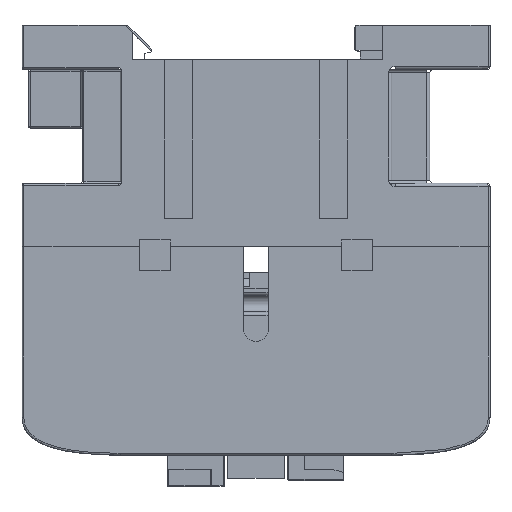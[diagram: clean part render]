
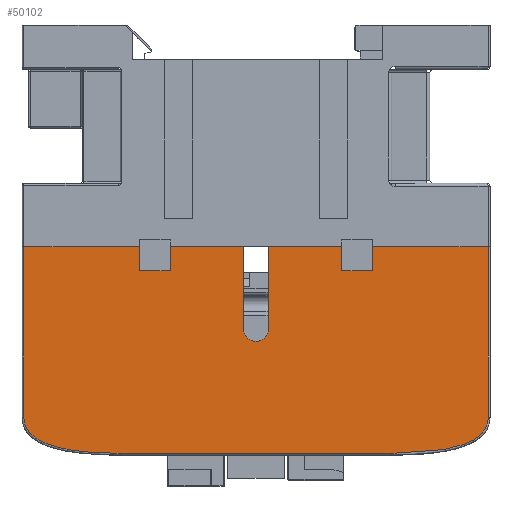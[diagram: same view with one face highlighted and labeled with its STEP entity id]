
A CAD part, left-side view. The second image highlights one B-rep face of the part: STEP entity #50102.
In plain terms, the highlighted planar face has unit normal (-1, 0, 0).
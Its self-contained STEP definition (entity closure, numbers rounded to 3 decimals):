
#30457=DIRECTION('',(0.,0.,1.));
#30458=VECTOR('',#30457,27.);
#30459=CARTESIAN_POINT('',(-22.5,-36.7,-31.));
#30460=LINE('',#30459,#30458);
#30461=CARTESIAN_POINT('',(-22.5,-21.5,-36.7));
#30462=CARTESIAN_POINT('',(-22.5,-21.761,-36.7));
#30463=CARTESIAN_POINT('',(-22.5,-22.294,-36.697));
#30464=CARTESIAN_POINT('',(-22.5,-23.094,-36.685));
#30465=CARTESIAN_POINT('',(-22.5,-24.004,-36.66));
#30466=CARTESIAN_POINT('',(-22.5,-24.994,-36.617));
#30467=CARTESIAN_POINT('',(-22.5,-26.084,-36.549));
#30468=CARTESIAN_POINT('',(-22.5,-27.258,-36.447));
#30469=CARTESIAN_POINT('',(-22.5,-28.44,-36.308));
#30470=CARTESIAN_POINT('',(-22.5,-29.549,-36.139));
#30471=CARTESIAN_POINT('',(-22.5,-30.555,-35.943));
#30472=CARTESIAN_POINT('',(-22.5,-31.445,-35.73));
#30473=CARTESIAN_POINT('',(-22.5,-32.228,-35.504));
#30474=CARTESIAN_POINT('',(-22.5,-32.926,-35.262));
#30475=CARTESIAN_POINT('',(-22.5,-33.553,-35.004));
#30476=CARTESIAN_POINT('',(-22.5,-34.108,-34.733));
#30477=CARTESIAN_POINT('',(-22.5,-34.593,-34.453));
#30478=CARTESIAN_POINT('',(-22.5,-35.013,-34.166));
#30479=CARTESIAN_POINT('',(-22.5,-35.371,-33.875));
#30480=CARTESIAN_POINT('',(-22.5,-35.672,-33.584));
#30481=CARTESIAN_POINT('',(-22.5,-35.92,-33.297));
#30482=CARTESIAN_POINT('',(-22.5,-36.121,-33.017));
#30483=CARTESIAN_POINT('',(-22.5,-36.281,-32.746));
#30484=CARTESIAN_POINT('',(-22.5,-36.405,-32.49));
#30485=CARTESIAN_POINT('',(-22.5,-36.498,-32.25));
#30486=CARTESIAN_POINT('',(-22.5,-36.567,-32.028));
#30487=CARTESIAN_POINT('',(-22.5,-36.617,-31.823));
#30488=CARTESIAN_POINT('',(-22.5,-36.652,-31.637));
#30489=CARTESIAN_POINT('',(-22.5,-36.675,-31.466));
#30490=CARTESIAN_POINT('',(-22.5,-36.689,-31.314));
#30491=CARTESIAN_POINT('',(-22.5,-36.698,-31.167));
#30492=CARTESIAN_POINT('',(-22.5,-36.7,-31.057));
#30493=CARTESIAN_POINT('',(-22.5,-36.7,-31.));
#30495=DIRECTION('',(0.,-1.,0.));
#30496=VECTOR('',#30495,43.);
#30497=CARTESIAN_POINT('',(-22.5,21.5,-36.7));
#30498=LINE('',#30497,#30496);
#30499=CARTESIAN_POINT('',(-22.5,36.7,-31.));
#30500=CARTESIAN_POINT('',(-22.5,36.7,-31.13));
#30501=CARTESIAN_POINT('',(-22.5,36.688,-31.391));
#30502=CARTESIAN_POINT('',(-22.5,36.635,-31.766));
#30503=CARTESIAN_POINT('',(-22.5,36.528,-32.186));
#30504=CARTESIAN_POINT('',(-22.5,36.347,-32.635));
#30505=CARTESIAN_POINT('',(-22.5,36.075,-33.103));
#30506=CARTESIAN_POINT('',(-22.5,35.693,-33.576));
#30507=CARTESIAN_POINT('',(-22.5,35.19,-34.041));
#30508=CARTESIAN_POINT('',(-22.5,34.56,-34.484));
#30509=CARTESIAN_POINT('',(-22.5,33.796,-34.901));
#30510=CARTESIAN_POINT('',(-22.5,32.896,-35.282));
#30511=CARTESIAN_POINT('',(-22.5,31.839,-35.629));
#30512=CARTESIAN_POINT('',(-22.5,30.605,-35.939));
#30513=CARTESIAN_POINT('',(-22.5,29.257,-36.191));
#30514=CARTESIAN_POINT('',(-22.5,27.998,-36.365));
#30515=CARTESIAN_POINT('',(-22.5,26.861,-36.484));
#30516=CARTESIAN_POINT('',(-22.5,25.833,-36.565));
#30517=CARTESIAN_POINT('',(-22.5,24.894,-36.621));
#30518=CARTESIAN_POINT('',(-22.5,24.056,-36.657));
#30519=CARTESIAN_POINT('',(-22.5,23.264,-36.681));
#30520=CARTESIAN_POINT('',(-22.5,22.441,-36.696));
#30521=CARTESIAN_POINT('',(-22.5,21.822,-36.7));
#30522=CARTESIAN_POINT('',(-22.5,21.5,-36.7));
#30524=DIRECTION('',(0.,0.,-1.));
#30525=VECTOR('',#30524,27.);
#30526=CARTESIAN_POINT('',(-22.5,36.7,-4.));
#30527=LINE('',#30526,#30525);
#30528=DIRECTION('',(0.,0.,-1.));
#30529=VECTOR('',#30528,3.8);
#30530=CARTESIAN_POINT('',(-22.5,18.45,-4.));
#30531=LINE('',#30530,#30529);
#30532=DIRECTION('',(0.,-1.,0.));
#30533=VECTOR('',#30532,4.9);
#30534=CARTESIAN_POINT('',(-22.5,18.45,-7.8));
#30535=LINE('',#30534,#30533);
#30536=DIRECTION('',(0.,0.,1.));
#30537=VECTOR('',#30536,3.8);
#30538=CARTESIAN_POINT('',(-22.5,13.55,-7.8));
#30539=LINE('',#30538,#30537);
#30540=DIRECTION('',(0.,0.,-1.));
#30541=VECTOR('',#30540,13.);
#30542=CARTESIAN_POINT('',(-22.5,2.,-4.));
#30543=LINE('',#30542,#30541);
#30544=CARTESIAN_POINT('',(-22.5,0.,-17.));
#30545=DIRECTION('',(-1.,0.,0.));
#30546=DIRECTION('',(0.,1.,0.));
#30547=AXIS2_PLACEMENT_3D('',#30544,#30545,#30546);
#30549=DIRECTION('',(0.,0.,-1.));
#30550=VECTOR('',#30549,13.);
#30551=CARTESIAN_POINT('',(-22.5,-2.,-4.));
#30552=LINE('',#30551,#30550);
#30553=DIRECTION('',(0.,0.,-1.));
#30554=VECTOR('',#30553,3.8);
#30555=CARTESIAN_POINT('',(-22.5,-13.55,-4.));
#30556=LINE('',#30555,#30554);
#30557=DIRECTION('',(0.,-1.,0.));
#30558=VECTOR('',#30557,4.9);
#30559=CARTESIAN_POINT('',(-22.5,-13.55,-7.8));
#30560=LINE('',#30559,#30558);
#30561=DIRECTION('',(0.,0.,1.));
#30562=VECTOR('',#30561,3.8);
#30563=CARTESIAN_POINT('',(-22.5,-18.45,-7.8));
#30564=LINE('',#30563,#30562);
#30693=DIRECTION('',(0.,1.,0.));
#30694=VECTOR('',#30693,11.55);
#30695=CARTESIAN_POINT('',(-22.5,-13.55,-4.));
#30696=LINE('',#30695,#30694);
#30757=DIRECTION('',(0.,1.,0.));
#30758=VECTOR('',#30757,11.55);
#30759=CARTESIAN_POINT('',(-22.5,2.,-4.));
#30760=LINE('',#30759,#30758);
#30863=DIRECTION('',(0.,1.,0.));
#30864=VECTOR('',#30863,18.25);
#30865=CARTESIAN_POINT('',(-22.5,-36.7,-4.));
#30866=LINE('',#30865,#30864);
#31022=DIRECTION('',(0.,1.,0.));
#31023=VECTOR('',#31022,18.25);
#31024=CARTESIAN_POINT('',(-22.5,18.45,-4.));
#31025=LINE('',#31024,#31023);
#47483=CARTESIAN_POINT('',(-22.5,-2.,-17.));
#47485=VERTEX_POINT('',#47483);
#47487=CARTESIAN_POINT('',(-22.5,2.,-17.));
#47489=VERTEX_POINT('',#47487);
#47491=CARTESIAN_POINT('',(-22.5,-2.,-4.));
#47492=VERTEX_POINT('',#47491);
#47493=CARTESIAN_POINT('',(-22.5,2.,-4.));
#47494=VERTEX_POINT('',#47493);
#47499=CARTESIAN_POINT('',(-22.5,-18.45,-4.));
#47500=CARTESIAN_POINT('',(-22.5,-18.45,-7.8));
#47501=VERTEX_POINT('',#47499);
#47502=VERTEX_POINT('',#47500);
#47503=CARTESIAN_POINT('',(-22.5,-13.55,-4.));
#47504=CARTESIAN_POINT('',(-22.5,-13.55,-7.8));
#47505=VERTEX_POINT('',#47503);
#47506=VERTEX_POINT('',#47504);
#47507=CARTESIAN_POINT('',(-22.5,18.45,-7.8));
#47508=CARTESIAN_POINT('',(-22.5,13.55,-7.8));
#47509=VERTEX_POINT('',#47507);
#47510=VERTEX_POINT('',#47508);
#47511=CARTESIAN_POINT('',(-22.5,13.55,-4.));
#47512=VERTEX_POINT('',#47511);
#47513=CARTESIAN_POINT('',(-22.5,18.45,-4.));
#47514=VERTEX_POINT('',#47513);
#47875=CARTESIAN_POINT('',(-22.5,-36.7,-4.));
#47877=VERTEX_POINT('',#47875);
#47881=CARTESIAN_POINT('',(-22.5,-36.7,-31.));
#47882=VERTEX_POINT('',#47881);
#47883=VERTEX_POINT('',#30461);
#47885=CARTESIAN_POINT('',(-22.5,21.5,-36.7));
#47886=VERTEX_POINT('',#47885);
#47889=VERTEX_POINT('',#30499);
#47892=CARTESIAN_POINT('',(-22.5,36.7,-4.));
#47894=VERTEX_POINT('',#47892);
#50059=CARTESIAN_POINT('',(-22.5,0.,-21.));
#50060=DIRECTION('',(1.,0.,0.));
#50061=DIRECTION('',(0.,-1.,0.));
#50062=AXIS2_PLACEMENT_3D('',#50059,#50060,#50061);
#50063=PLANE('',#50062);
#50065=ORIENTED_EDGE('',*,*,#50064,.F.);
#50067=ORIENTED_EDGE('',*,*,#50066,.F.);
#50069=ORIENTED_EDGE('',*,*,#50068,.F.);
#50071=ORIENTED_EDGE('',*,*,#50070,.F.);
#50073=ORIENTED_EDGE('',*,*,#50072,.F.);
#50075=ORIENTED_EDGE('',*,*,#50074,.F.);
#50077=ORIENTED_EDGE('',*,*,#50076,.T.);
#50079=ORIENTED_EDGE('',*,*,#50078,.T.);
#50081=ORIENTED_EDGE('',*,*,#50080,.T.);
#50083=ORIENTED_EDGE('',*,*,#50082,.F.);
#50085=ORIENTED_EDGE('',*,*,#50084,.T.);
#50087=ORIENTED_EDGE('',*,*,#50086,.T.);
#50089=ORIENTED_EDGE('',*,*,#50088,.F.);
#50091=ORIENTED_EDGE('',*,*,#50090,.F.);
#50093=ORIENTED_EDGE('',*,*,#50092,.T.);
#50095=ORIENTED_EDGE('',*,*,#50094,.T.);
#50097=ORIENTED_EDGE('',*,*,#50096,.T.);
#50099=ORIENTED_EDGE('',*,*,#50098,.F.);
#50100=EDGE_LOOP('',(#50065,#50067,#50069,#50071,#50073,#50075,#50077,#50079,
#50081,#50083,#50085,#50087,#50089,#50091,#50093,#50095,#50097,#50099));
#50101=FACE_OUTER_BOUND('',#50100,.F.);
#50102=ADVANCED_FACE('',(#50101),#50063,.F.);
#30494=B_SPLINE_CURVE_WITH_KNOTS('',3,(#30461,#30462,#30463,#30464,#30465,
#30466,#30467,#30468,#30469,#30470,#30471,#30472,#30473,#30474,#30475,#30476,
#30477,#30478,#30479,#30480,#30481,#30482,#30483,#30484,#30485,#30486,#30487,
#30488,#30489,#30490,#30491,#30492,#30493),.UNSPECIFIED.,.F.,.F.,(4,1,1,1,1,1,1,
1,1,1,1,1,1,1,1,1,1,1,1,1,1,1,1,1,1,1,1,1,1,1,4),(0.,0.033,
0.067,0.1,0.133,0.167,0.2,
0.233,0.267,0.3,0.333,0.367,
0.4,0.433,0.467,0.5,0.533,
0.567,0.6,0.633,0.667,0.7,
0.733,0.767,0.8,0.833,0.867,
0.9,0.933,0.967,1.),.UNSPECIFIED.);
#30523=B_SPLINE_CURVE_WITH_KNOTS('',3,(#30499,#30500,#30501,#30502,#30503,
#30504,#30505,#30506,#30507,#30508,#30509,#30510,#30511,#30512,#30513,#30514,
#30515,#30516,#30517,#30518,#30519,#30520,#30521,#30522),.UNSPECIFIED.,.F.,.F.,(
4,1,1,1,1,1,1,1,1,1,1,1,1,1,1,1,1,1,1,1,1,4),(0.,0.048,
0.095,0.143,0.19,0.238,
0.286,0.333,0.381,0.429,
0.476,0.524,0.571,0.619,
0.667,0.714,0.762,0.81,
0.857,0.905,0.952,1.),.UNSPECIFIED.);
#30548=CIRCLE('',#30547,2.);
#50064=EDGE_CURVE('',#47882,#47877,#30460,.T.);
#50066=EDGE_CURVE('',#47883,#47882,#30494,.T.);
#50068=EDGE_CURVE('',#47886,#47883,#30498,.T.);
#50070=EDGE_CURVE('',#47889,#47886,#30523,.T.);
#50072=EDGE_CURVE('',#47894,#47889,#30527,.T.);
#50074=EDGE_CURVE('',#47514,#47894,#31025,.T.);
#50076=EDGE_CURVE('',#47514,#47509,#30531,.T.);
#50078=EDGE_CURVE('',#47509,#47510,#30535,.T.);
#50080=EDGE_CURVE('',#47510,#47512,#30539,.T.);
#50082=EDGE_CURVE('',#47494,#47512,#30760,.T.);
#50084=EDGE_CURVE('',#47494,#47489,#30543,.T.);
#50086=EDGE_CURVE('',#47489,#47485,#30548,.T.);
#50088=EDGE_CURVE('',#47492,#47485,#30552,.T.);
#50090=EDGE_CURVE('',#47505,#47492,#30696,.T.);
#50092=EDGE_CURVE('',#47505,#47506,#30556,.T.);
#50094=EDGE_CURVE('',#47506,#47502,#30560,.T.);
#50096=EDGE_CURVE('',#47502,#47501,#30564,.T.);
#50098=EDGE_CURVE('',#47877,#47501,#30866,.T.);
